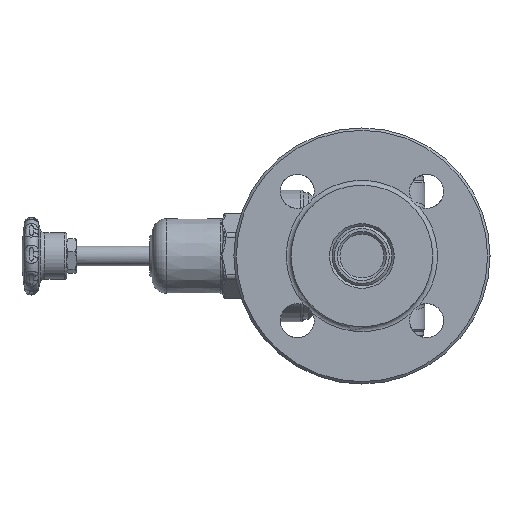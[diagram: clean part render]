
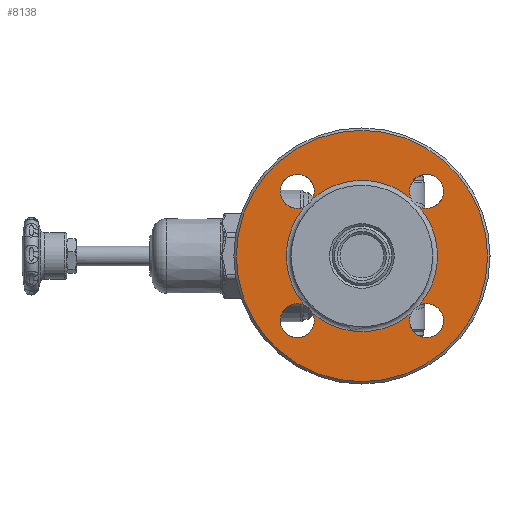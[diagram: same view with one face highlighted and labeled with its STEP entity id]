
A CAD part, left-side view. The second image highlights one B-rep face of the part: STEP entity #8138.
In plain terms, the highlighted planar face has unit normal (-1, 0, 0).
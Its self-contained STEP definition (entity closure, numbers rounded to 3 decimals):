
#1920=FACE_BOUND('',#2618,.T.);
#2109=FACE_OUTER_BOUND('',#2617,.T.);
#2617=EDGE_LOOP('',(#6412));
#2618=EDGE_LOOP('',(#6413,#6414,#6415,#6416,#6417,#6418,#6419,#6420,#6421,
#6422,#6423,#6424,#6425));
#3156=CIRCLE('',#8852,51.5);
#3157=CIRCLE('',#8854,7.);
#3158=CIRCLE('',#8855,7.);
#3159=CIRCLE('',#8856,31.);
#3160=CIRCLE('',#8857,7.);
#3161=CIRCLE('',#8858,7.);
#3162=CIRCLE('',#8859,31.);
#3163=CIRCLE('',#8860,31.);
#3164=CIRCLE('',#8861,7.);
#3165=CIRCLE('',#8862,7.);
#3166=CIRCLE('',#8863,31.);
#3167=CIRCLE('',#8864,7.);
#3168=CIRCLE('',#8865,7.);
#3169=CIRCLE('',#8866,31.);
#3841=VERTEX_POINT('',#15090);
#3842=VERTEX_POINT('',#15094);
#3843=VERTEX_POINT('',#15095);
#3844=VERTEX_POINT('',#15097);
#3845=VERTEX_POINT('',#15099);
#3846=VERTEX_POINT('',#15101);
#3847=VERTEX_POINT('',#15103);
#3848=VERTEX_POINT('',#15105);
#3849=VERTEX_POINT('',#15107);
#3850=VERTEX_POINT('',#15109);
#3851=VERTEX_POINT('',#15111);
#3852=VERTEX_POINT('',#15113);
#3853=VERTEX_POINT('',#15115);
#3854=VERTEX_POINT('',#15117);
#4805=EDGE_CURVE('',#3841,#3841,#3156,.T.);
#4806=EDGE_CURVE('',#3842,#3843,#3157,.T.);
#4807=EDGE_CURVE('',#3843,#3844,#3158,.T.);
#4808=EDGE_CURVE('',#3845,#3844,#3159,.T.);
#4809=EDGE_CURVE('',#3845,#3846,#3160,.T.);
#4810=EDGE_CURVE('',#3846,#3847,#3161,.T.);
#4811=EDGE_CURVE('',#3848,#3847,#3162,.T.);
#4812=EDGE_CURVE('',#3849,#3848,#3163,.T.);
#4813=EDGE_CURVE('',#3849,#3850,#3164,.T.);
#4814=EDGE_CURVE('',#3850,#3851,#3165,.T.);
#4815=EDGE_CURVE('',#3852,#3851,#3166,.T.);
#4816=EDGE_CURVE('',#3852,#3853,#3167,.T.);
#4817=EDGE_CURVE('',#3853,#3854,#3168,.T.);
#4818=EDGE_CURVE('',#3842,#3854,#3169,.T.);
#6412=ORIENTED_EDGE('',*,*,#4805,.F.);
#6413=ORIENTED_EDGE('',*,*,#4806,.T.);
#6414=ORIENTED_EDGE('',*,*,#4807,.T.);
#6415=ORIENTED_EDGE('',*,*,#4808,.F.);
#6416=ORIENTED_EDGE('',*,*,#4809,.T.);
#6417=ORIENTED_EDGE('',*,*,#4810,.T.);
#6418=ORIENTED_EDGE('',*,*,#4811,.F.);
#6419=ORIENTED_EDGE('',*,*,#4812,.F.);
#6420=ORIENTED_EDGE('',*,*,#4813,.T.);
#6421=ORIENTED_EDGE('',*,*,#4814,.T.);
#6422=ORIENTED_EDGE('',*,*,#4815,.F.);
#6423=ORIENTED_EDGE('',*,*,#4816,.T.);
#6424=ORIENTED_EDGE('',*,*,#4817,.T.);
#6425=ORIENTED_EDGE('',*,*,#4818,.F.);
#7882=PLANE('',#8853);
#8138=ADVANCED_FACE('',(#2109,#1920),#7882,.T.);
#8852=AXIS2_PLACEMENT_3D('',#15092,#10262,#10263);
#8853=AXIS2_PLACEMENT_3D('',#15093,#10264,#10265);
#8854=AXIS2_PLACEMENT_3D('',#15096,#10266,#10267);
#8855=AXIS2_PLACEMENT_3D('',#15098,#10268,#10269);
#8856=AXIS2_PLACEMENT_3D('',#15100,#10270,#10271);
#8857=AXIS2_PLACEMENT_3D('',#15102,#10272,#10273);
#8858=AXIS2_PLACEMENT_3D('',#15104,#10274,#10275);
#8859=AXIS2_PLACEMENT_3D('',#15106,#10276,#10277);
#8860=AXIS2_PLACEMENT_3D('',#15108,#10278,#10279);
#8861=AXIS2_PLACEMENT_3D('',#15110,#10280,#10281);
#8862=AXIS2_PLACEMENT_3D('',#15112,#10282,#10283);
#8863=AXIS2_PLACEMENT_3D('',#15114,#10284,#10285);
#8864=AXIS2_PLACEMENT_3D('',#15116,#10286,#10287);
#8865=AXIS2_PLACEMENT_3D('',#15118,#10288,#10289);
#8866=AXIS2_PLACEMENT_3D('',#15119,#10290,#10291);
#10262=DIRECTION('center_axis',(1.,0.,0.));
#10263=DIRECTION('ref_axis',(0.,0.,1.));
#10264=DIRECTION('center_axis',(-1.,0.,0.));
#10265=DIRECTION('ref_axis',(0.,0.,1.));
#10266=DIRECTION('center_axis',(1.,0.,0.));
#10267=DIRECTION('ref_axis',(0.,0.,-1.));
#10268=DIRECTION('center_axis',(1.,0.,0.));
#10269=DIRECTION('ref_axis',(0.,0.,-1.));
#10270=DIRECTION('center_axis',(-1.,0.,0.));
#10271=DIRECTION('ref_axis',(0.,0.,1.));
#10272=DIRECTION('center_axis',(1.,0.,0.));
#10273=DIRECTION('ref_axis',(0.,1.,0.));
#10274=DIRECTION('center_axis',(1.,0.,0.));
#10275=DIRECTION('ref_axis',(0.,1.,0.));
#10276=DIRECTION('center_axis',(-1.,0.,0.));
#10277=DIRECTION('ref_axis',(0.,0.,1.));
#10278=DIRECTION('center_axis',(-1.,0.,0.));
#10279=DIRECTION('ref_axis',(0.,0.,1.));
#10280=DIRECTION('center_axis',(1.,0.,0.));
#10281=DIRECTION('ref_axis',(0.,0.,1.));
#10282=DIRECTION('center_axis',(1.,0.,0.));
#10283=DIRECTION('ref_axis',(0.,0.,1.));
#10284=DIRECTION('center_axis',(-1.,0.,0.));
#10285=DIRECTION('ref_axis',(0.,0.,1.));
#10286=DIRECTION('center_axis',(1.,0.,0.));
#10287=DIRECTION('ref_axis',(0.,-1.,0.));
#10288=DIRECTION('center_axis',(1.,0.,0.));
#10289=DIRECTION('ref_axis',(0.,-1.,0.));
#10290=DIRECTION('center_axis',(-1.,0.,0.));
#10291=DIRECTION('ref_axis',(0.,0.,1.));
#15090=CARTESIAN_POINT('',(-73.5,27.,-51.5));
#15092=CARTESIAN_POINT('Origin',(-73.5,27.,0.));
#15093=CARTESIAN_POINT('Origin',(-73.5,27.,0.));
#15094=CARTESIAN_POINT('',(-73.5,6.812,23.526));
#15095=CARTESIAN_POINT('',(-73.5,0.483,33.517));
#15096=CARTESIAN_POINT('Origin',(-73.5,0.483,26.517));
#15097=CARTESIAN_POINT('',(-73.5,3.474,20.188));
#15098=CARTESIAN_POINT('Origin',(-73.5,0.483,26.517));
#15099=CARTESIAN_POINT('',(-73.5,3.474,-20.188));
#15100=CARTESIAN_POINT('Origin',(-73.5,27.,0.));
#15101=CARTESIAN_POINT('',(-73.5,-6.517,-26.517));
#15102=CARTESIAN_POINT('Origin',(-73.5,0.483,-26.517));
#15103=CARTESIAN_POINT('',(-73.5,6.812,-23.526));
#15104=CARTESIAN_POINT('Origin',(-73.5,0.483,-26.517));
#15105=CARTESIAN_POINT('',(-73.5,27.,-31.));
#15106=CARTESIAN_POINT('Origin',(-73.5,27.,0.));
#15107=CARTESIAN_POINT('',(-73.5,47.188,-23.526));
#15108=CARTESIAN_POINT('Origin',(-73.5,27.,0.));
#15109=CARTESIAN_POINT('',(-73.5,53.517,-33.517));
#15110=CARTESIAN_POINT('Origin',(-73.5,53.517,-26.517));
#15111=CARTESIAN_POINT('',(-73.5,50.526,-20.188));
#15112=CARTESIAN_POINT('Origin',(-73.5,53.517,-26.517));
#15113=CARTESIAN_POINT('',(-73.5,50.526,20.188));
#15114=CARTESIAN_POINT('Origin',(-73.5,27.,0.));
#15115=CARTESIAN_POINT('',(-73.5,60.517,26.517));
#15116=CARTESIAN_POINT('Origin',(-73.5,53.517,26.517));
#15117=CARTESIAN_POINT('',(-73.5,47.188,23.526));
#15118=CARTESIAN_POINT('Origin',(-73.5,53.517,26.517));
#15119=CARTESIAN_POINT('Origin',(-73.5,27.,0.));
